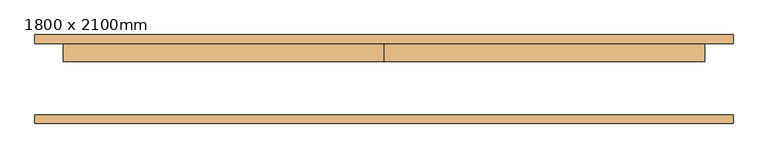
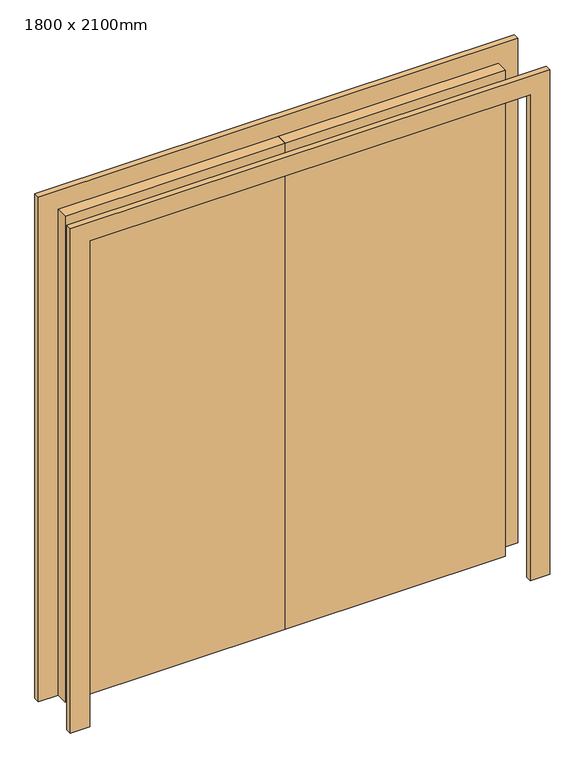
"""IFC4 building model written with IfcOpenShell, lengths in millimetres: door geometry, Дверь-Двойная-Щитовая_Панель : 1800 x 2100mm."""

import ifcopenshell
import ifcopenshell.guid

model = None  # the IFC model being written
_history = None  # IfcOwnerHistory: only IFC2X3 demands one
_inside = {}  # id of a spatial element -> (the spatial element, [elements in it])
_under = {}  # id of a project, library or spatial element -> (it, [spatial elements below it])
_declared = {}  # id of a project -> (the project, [libraries it declares])
_typed = {}  # id of a type object -> (the type object, [elements of that type])
_made_of = {}  # id of a material, layer set ... -> (it, [elements and type objects made of it])


def new_model(schema):
    """Start an empty IFC model of exactly this schema.

    Asked for "IFC4X3", IfcOpenShell would pick the latest addendum, in which some entities
    have other attributes; the version numbers below select the first issue.
    IFC2X3 requires an IfcOwnerHistory on every rooted entity: one is made here for all.
    """
    global model, _history
    if schema == "IFC4X3":
        model = ifcopenshell.file(schema_version=(4, 3, 0, 0))
    else:
        model = ifcopenshell.file(schema=schema)
    _inside.clear()
    _under.clear()
    _declared.clear()
    _typed.clear()
    _made_of.clear()
    _history = None
    if model.schema == "IFC2X3":
        org = make("IfcOrganization", Name="unknown")
        user = make(
            "IfcPersonAndOrganization",
            ThePerson=make("IfcPerson", FamilyName="unknown"),
            TheOrganization=org,
        )
        app = make(
            "IfcApplication",
            ApplicationDeveloper=org,
            Version="unknown",
            ApplicationFullName="unknown",
            ApplicationIdentifier="unknown",
        )
        _history = make(
            "IfcOwnerHistory",
            OwningUser=user,
            OwningApplication=app,
            ChangeAction="ADDED",
            CreationDate=0,
        )
    return model


def make(cls, **values):
    """One entity of the class cls with the attributes given. An attribute that is None is left unset."""
    return model.create_entity(
        cls, **{name: value for name, value in values.items() if value is not None}
    )


def rooted(cls, **values):
    """An entity with a GlobalId (a new one), such as an element, a storey or a relation."""
    return make(cls, GlobalId=ifcopenshell.guid.new(), OwnerHistory=_history, **values)


def si_unit(unit_type, name, prefix=None):
    """IfcSIUnit, for example si_unit("LENGTHUNIT", "METRE", prefix="MILLI")."""
    return make("IfcSIUnit", UnitType=unit_type, Prefix=prefix, Name=name)


def assignment(units):
    """IfcUnitAssignment: the units of a project."""
    return None if units is None else make("IfcUnitAssignment", Units=units)


def point(xyz):
    """IfcCartesianPoint."""
    return None if xyz is None else make("IfcCartesianPoint", Coordinates=xyz)


def direction(xyz):
    """IfcDirection."""
    return None if xyz is None else make("IfcDirection", DirectionRatios=xyz)


def frame(location, z_axis=None, x_axis=None):
    """IfcAxis2Placement3D, a coordinate frame: its origin and axes. An axis left out is left unset."""
    return make(
        "IfcAxis2Placement3D",
        Location=point(location),
        Axis=direction(z_axis),
        RefDirection=direction(x_axis),
    )


def origin():
    """The frame at (0, 0, 0) with its axes left unset."""
    return frame((0.0, 0.0, 0.0))


def origin_with_axes():
    """The frame at (0, 0, 0) with the z axis (0, 0, 1) and the x axis (1, 0, 0) written out."""
    return frame((0.0, 0.0, 0.0), z_axis=(0.0, 0.0, 1.0), x_axis=(1.0, 0.0, 0.0))


def place(relative_to, where):
    """IfcLocalPlacement: puts the frame where relative to a parent placement (None: the world)."""
    return make(
        "IfcLocalPlacement", PlacementRelTo=relative_to, RelativePlacement=where
    )


def context(
    kind, dimensions, precision=None, world=None, true_north=None, identifier=None
):
    """IfcGeometricRepresentationContext, for example the 3D "Model" context."""
    return make(
        "IfcGeometricRepresentationContext",
        ContextIdentifier=identifier,
        ContextType=kind,
        CoordinateSpaceDimension=dimensions,
        Precision=precision,
        WorldCoordinateSystem=world,
        TrueNorth=true_north,
    )


def project(units=None, contexts=None):
    """IfcProject with its units and contexts."""
    return rooted(
        "IfcProject",
        Name="project",
        RepresentationContexts=contexts,
        UnitsInContext=assignment(units),
    )


def spatial(cls, under=None, at=None, **own):
    """A site, building, storey or space (cls), placed at a placement, below another one or the project."""
    s = rooted(cls, ObjectPlacement=at, **own)
    if under is not None:
        _under.setdefault(under.id(), (under, []))[1].append(s)
    return s


def polyline(points):
    """IfcPolyline through the points."""
    return make("IfcPolyline", Points=[point(p) for p in points])


def outline(outer, holes=None, kind="AREA"):
    """IfcArbitraryClosedProfileDef: a profile drawn as a closed curve; with holes, ...WithVoids."""
    if holes is None:
        return make("IfcArbitraryClosedProfileDef", ProfileType=kind, OuterCurve=outer)
    return make(
        "IfcArbitraryProfileDefWithVoids",
        ProfileType=kind,
        OuterCurve=outer,
        InnerCurves=holes,
    )


def extrude(swept, where, along, depth):
    """IfcExtrudedAreaSolid: the profile swept, set in the frame where, extruded along a direction by depth."""
    return make(
        "IfcExtrudedAreaSolid",
        SweptArea=swept,
        Position=where,
        ExtrudedDirection=direction(along),
        Depth=depth,
    )


def shape(context_of_items, identifier, shape_type, items):
    """IfcShapeRepresentation: the items that make up one representation, for example the "Body"."""
    return make(
        "IfcShapeRepresentation",
        ContextOfItems=context_of_items,
        RepresentationIdentifier=identifier,
        RepresentationType=shape_type,
        Items=items,
    )


def source(mapping_origin, context_of_items, identifier, shape_type, items):
    """IfcRepresentationMap: a shape defined once, which mapped items show again and again."""
    return make(
        "IfcRepresentationMap",
        MappingOrigin=mapping_origin,
        MappedRepresentation=shape(context_of_items, identifier, shape_type, items),
    )


def transform(
    local_origin,
    x_axis=None,
    y_axis=None,
    z_axis=None,
    scale=None,
    scale2=None,
    scale3=None,
    uniform=True,
):
    """IfcCartesianTransformationOperator3D, or its non-uniform kind. x_axis, y_axis, z_axis: its Axis1, 2, 3."""
    if uniform:
        return make(
            "IfcCartesianTransformationOperator3D",
            Axis1=direction(x_axis),
            Axis2=direction(y_axis),
            LocalOrigin=point(local_origin),
            Scale=scale,
            Axis3=direction(z_axis),
        )
    return make(
        "IfcCartesianTransformationOperator3DnonUniform",
        Axis1=direction(x_axis),
        Axis2=direction(y_axis),
        LocalOrigin=point(local_origin),
        Scale=scale,
        Axis3=direction(z_axis),
        Scale2=scale2,
        Scale3=scale3,
    )


def mapped(mapping_source, mapping_target):
    """IfcMappedItem: shows the shape of a source again, moved by a transform."""
    return make(
        "IfcMappedItem", MappingSource=mapping_source, MappingTarget=mapping_target
    )


def made_of(thing, what):
    """Note that an element or type object is made of a material, layer set ...; save() writes the relation."""
    if what is not None:
        _made_of.setdefault(what.id(), (what, []))[1].append(thing)
    return thing


def element(
    cls,
    number,
    at=None,
    inside=None,
    cuts=None,
    type_object=None,
    material=None,
    context=None,
    identifier="Body",
    shape_type=None,
    held_by="IfcProductDefinitionShape",
    body=None,
    shapes=None,
    **own,
):
    """One element of the class cls, such as IfcWall. Its Tag is "e" and its number.

    at: its placement. inside: the storey or other place that contains it. cuts: it is an
    opening in that element (IfcRelVoidsElement). A single representation is given by context,
    identifier, shape_type and body (its items); several are given by shapes. held_by: the class
    of the entity that holds the representations. save() writes the other relations.
    """
    e = rooted(cls, Tag="e%d" % number, ObjectPlacement=at, **own)
    if body is not None:
        shapes = [shape(context, identifier, shape_type, body)]
    if shapes is not None:
        e.Representation = make(held_by, Representations=shapes)
    if inside is not None:
        _inside.setdefault(inside.id(), (inside, []))[1].append(e)
    if cuts is not None:
        rooted(
            "IfcRelVoidsElement", RelatingBuildingElement=cuts, RelatedOpeningElement=e
        )
    if type_object is not None:
        _typed.setdefault(type_object.id(), (type_object, []))[1].append(e)
    return made_of(e, material)


def aggregate(whole, parts):
    """IfcRelAggregates: a whole, such as a stair, and the parts it consists of."""
    return rooted("IfcRelAggregates", RelatingObject=whole, RelatedObjects=parts)


def save(model, path):
    """Write the relations noted so far, then the file.

    IfcRelAggregates (storeys below a building ...), IfcRelContainedInSpatialStructure (elements
    in a storey), IfcRelDefinesByType, IfcRelAssociatesMaterial and IfcRelDeclares: one each for
    every whole, place, type object, material and project.
    """
    for whole, parts in _under.values():
        aggregate(whole, parts)
    for where, things in _inside.values():
        rooted(
            "IfcRelContainedInSpatialStructure",
            RelatedElements=things,
            RelatingStructure=where,
        )
    for kind, things in _typed.values():
        rooted("IfcRelDefinesByType", RelatedObjects=things, RelatingType=kind)
    for what, things in _made_of.values():
        rooted("IfcRelAssociatesMaterial", RelatedObjects=things, RelatingMaterial=what)
    for by, libraries in _declared.values():
        rooted("IfcRelDeclares", RelatingContext=by, RelatedDefinitions=libraries)
    model.write(path)


def door_1800_x_2100mm_9435c0a4(model_context):
    return source(origin(), model_context, "Body", "SweptSolid", [
        extrude(outline(polyline([(2100.0, -900.0), (2100.0, 900.0), (0.0, 900.0), (0.0, 980.0), (2180.0, 980.0), (2180.0, -980.0), (0.0, -980.0), (0.0, -900.0), (2100.0, -900.0)])), frame((0.0, -125.0, 0.0), z_axis=(0.0, 1.0, 0.0), x_axis=(0.0, 0.0, 1.0)), (0.0, 0.0, 1.0), 25.0),
        extrude(outline(polyline([(2100.0, -900.0), (2100.0, 900.0), (0.0, 900.0), (0.0, 980.0), (2180.0, 980.0), (2180.0, -980.0), (0.0, -980.0), (0.0, -900.0), (2100.0, -900.0)])), frame((0.0, 100.0, 0.0), z_axis=(0.0, 1.0, 0.0), x_axis=(0.0, 0.0, 1.0)), (0.0, 0.0, 1.0), 25.0),
        extrude(outline(polyline([(0.0, 100.0), (900.0, 100.0), (900.0, 50.0), (0.0, 50.0), (0.0, 100.0)])), origin_with_axes(), (0.0, 0.0, 1.0), 2100.0),
        extrude(outline(polyline([(-900.0, 100.0), (0.0, 100.0), (0.0, 50.0), (-900.0, 50.0), (-900.0, 100.0)])), origin_with_axes(), (0.0, 0.0, 1.0), 2100.0),
    ])


if __name__ == "__main__":
    model = new_model("IFC4")
    model_context = context("Model", 3, world=origin())
    ifc_project = project(units=[si_unit("LENGTHUNIT", "METRE", prefix="MILLI")], contexts=[model_context])
    site = spatial("IfcSite", under=ifc_project)
    building = spatial("IfcBuilding", under=site)
    placement = place(None, origin())
    door_1800_x_2100mm_shape = door_1800_x_2100mm_9435c0a4(model_context)
    element("IfcDoor", 1, ObjectType="Дверь-Двойная-Щитовая_Панель : 1800 x 2100mm", at=placement, inside=building, context=model_context, shape_type="MappedRepresentation", body=[
        mapped(door_1800_x_2100mm_shape, transform((0.0, 0.0, 0.0), x_axis=(1.0, 0.0, 0.0), y_axis=(0.0, 1.0, 0.0), z_axis=(0.0, 0.0, 1.0))),
    ])
    save(model, "model.ifc")
